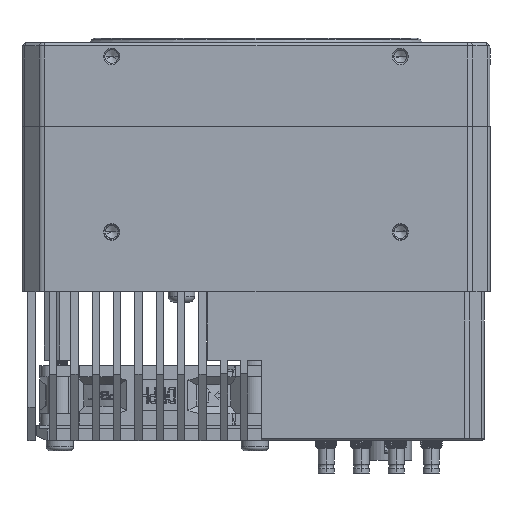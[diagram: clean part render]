
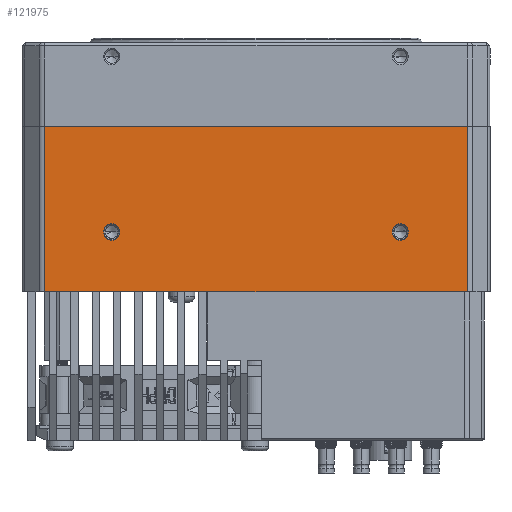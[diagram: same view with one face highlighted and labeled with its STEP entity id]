
A CAD part, front view. The second image highlights one B-rep face of the part: STEP entity #121975.
In plain terms, the highlighted planar face has unit normal (0, -1, 0).
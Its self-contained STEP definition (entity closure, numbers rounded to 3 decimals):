
#32097=DIRECTION('',(0.,0.,1.));
#32098=VECTOR('',#32097,42.36);
#32099=CARTESIAN_POINT('',(54.172,-60.,-38.21));
#32100=LINE('',#32099,#32098);
#32101=DIRECTION('',(-1.,0.,0.));
#32102=VECTOR('',#32101,108.343);
#32103=CARTESIAN_POINT('',(54.172,-60.,-38.21));
#32104=LINE('',#32103,#32102);
#32105=DIRECTION('',(0.,0.,1.));
#32106=VECTOR('',#32105,42.36);
#32107=CARTESIAN_POINT('',(-54.172,-60.,-38.21));
#32108=LINE('',#32107,#32106);
#32109=DIRECTION('',(1.,0.,0.));
#32110=VECTOR('',#32109,108.343);
#32111=CARTESIAN_POINT('',(-54.172,-60.,4.15));
#32112=LINE('',#32111,#32110);
#32113=CARTESIAN_POINT('',(-37.,-60.,-22.85));
#32114=DIRECTION('',(0.,-1.,0.));
#32115=DIRECTION('',(-1.,0.,0.));
#32116=AXIS2_PLACEMENT_3D('',#32113,#32114,#32115);
#32118=CARTESIAN_POINT('',(-37.,-60.,-22.85));
#32119=DIRECTION('',(0.,-1.,0.));
#32120=DIRECTION('',(1.,0.,0.));
#32121=AXIS2_PLACEMENT_3D('',#32118,#32119,#32120);
#32123=CARTESIAN_POINT('',(37.,-60.,-22.85));
#32124=DIRECTION('',(0.,-1.,0.));
#32125=DIRECTION('',(-1.,0.,0.));
#32126=AXIS2_PLACEMENT_3D('',#32123,#32124,#32125);
#32128=CARTESIAN_POINT('',(37.,-60.,-22.85));
#32129=DIRECTION('',(0.,-1.,0.));
#32130=DIRECTION('',(1.,0.,0.));
#32131=AXIS2_PLACEMENT_3D('',#32128,#32129,#32130);
#68066=CARTESIAN_POINT('',(54.172,-60.,4.15));
#68067=VERTEX_POINT('',#68066);
#68068=CARTESIAN_POINT('',(-54.172,-60.,4.15));
#68069=VERTEX_POINT('',#68068);
#68134=CARTESIAN_POINT('',(-54.172,-60.,-38.21));
#68135=VERTEX_POINT('',#68134);
#68136=CARTESIAN_POINT('',(54.172,-60.,-38.21));
#68137=VERTEX_POINT('',#68136);
#68204=CARTESIAN_POINT('',(-39.1,-60.,-22.85));
#68205=CARTESIAN_POINT('',(-34.9,-60.,-22.85));
#68206=VERTEX_POINT('',#68204);
#68207=VERTEX_POINT('',#68205);
#68208=CARTESIAN_POINT('',(34.9,-60.,-22.85));
#68209=CARTESIAN_POINT('',(39.1,-60.,-22.85));
#68210=VERTEX_POINT('',#68208);
#68211=VERTEX_POINT('',#68209);
#121951=CARTESIAN_POINT('',(0.,-60.,-17.03));
#121952=DIRECTION('',(0.,1.,0.));
#121953=DIRECTION('',(1.,0.,0.));
#121954=AXIS2_PLACEMENT_3D('',#121951,#121952,#121953);
#121955=PLANE('',#121954);
#121956=ORIENTED_EDGE('',*,*,#121946,.F.);
#121957=ORIENTED_EDGE('',*,*,#121768,.T.);
#121959=ORIENTED_EDGE('',*,*,#121958,.T.);
#121960=ORIENTED_EDGE('',*,*,#121828,.T.);
#121961=EDGE_LOOP('',(#121956,#121957,#121959,#121960));
#121962=FACE_OUTER_BOUND('',#121961,.F.);
#121964=ORIENTED_EDGE('',*,*,#121963,.T.);
#121966=ORIENTED_EDGE('',*,*,#121965,.T.);
#121967=EDGE_LOOP('',(#121964,#121966));
#121968=FACE_BOUND('',#121967,.F.);
#121970=ORIENTED_EDGE('',*,*,#121969,.T.);
#121972=ORIENTED_EDGE('',*,*,#121971,.T.);
#121973=EDGE_LOOP('',(#121970,#121972));
#121974=FACE_BOUND('',#121973,.F.);
#121975=ADVANCED_FACE('',(#121962,#121968,#121974),#121955,.F.);
#32117=CIRCLE('',#32116,2.1);
#32122=CIRCLE('',#32121,2.1);
#32127=CIRCLE('',#32126,2.1);
#32132=CIRCLE('',#32131,2.1);
#121768=EDGE_CURVE('',#68137,#68135,#32104,.T.);
#121828=EDGE_CURVE('',#68069,#68067,#32112,.T.);
#121946=EDGE_CURVE('',#68137,#68067,#32100,.T.);
#121958=EDGE_CURVE('',#68135,#68069,#32108,.T.);
#121963=EDGE_CURVE('',#68206,#68207,#32117,.T.);
#121965=EDGE_CURVE('',#68207,#68206,#32122,.T.);
#121969=EDGE_CURVE('',#68210,#68211,#32127,.T.);
#121971=EDGE_CURVE('',#68211,#68210,#32132,.T.);
